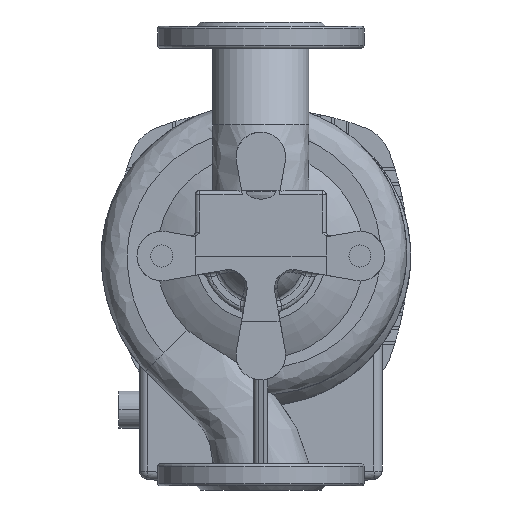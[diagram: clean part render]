
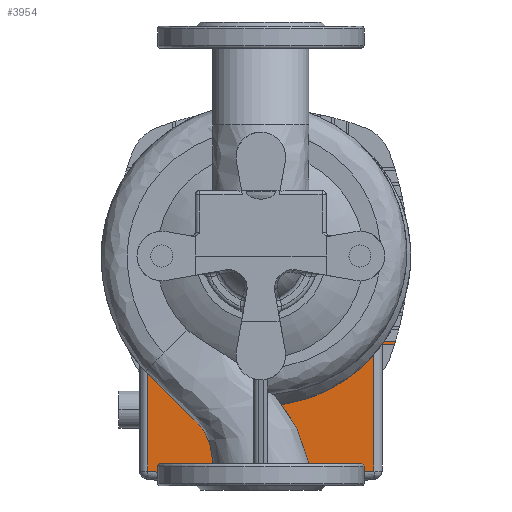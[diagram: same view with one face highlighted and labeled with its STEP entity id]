
A CAD part, front view. The second image highlights one B-rep face of the part: STEP entity #3954.
In plain terms, the highlighted planar face has unit normal (0, -1, 0) as drawn and (0, 0, 1) by its records, which use the part's own axes.
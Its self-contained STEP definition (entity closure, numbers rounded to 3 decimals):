
#27 = CARTESIAN_POINT ( 'NONE',  ( 0., 0., -113.5 ) ) ;
#345 = VECTOR ( 'NONE', #12609, 1000. ) ;
#584 = EDGE_LOOP ( 'NONE', ( #8797, #7094, #8966, #15086, #21659, #20999, #15289, #6749, #27002, #19472 ) ) ;
#720 = AXIS2_PLACEMENT_3D ( 'NONE', #22443, #16130, #8264 ) ;
#1296 = LINE ( 'NONE', #5286, #10398 ) ;
#1369 = VERTEX_POINT ( 'NONE', #26529 ) ;
#1425 = AXIS2_PLACEMENT_3D ( 'NONE', #7598, #16123, #3740 ) ;
#1437 = CARTESIAN_POINT ( 'NONE',  ( -107., 64., -113.5 ) ) ;
#1501 = AXIS2_PLACEMENT_3D ( 'NONE', #22951, #23489, #2060 ) ;
#1699 = CARTESIAN_POINT ( 'NONE',  ( 51.5, 107., -113.5 ) ) ;
#2060 = DIRECTION ( 'NONE',  ( 1., 0., 0. ) ) ;
#2129 = EDGE_CURVE ( 'NONE', #11308, #9500, #16291, .T. ) ;
#2142 = VERTEX_POINT ( 'NONE', #12300 ) ;
#2224 = CARTESIAN_POINT ( 'NONE',  ( -82.1, 156.227, -113.5 ) ) ;
#2387 = CIRCLE ( 'NONE', #1501, 213.5 ) ;
#2570 = VECTOR ( 'NONE', #11422, 1000. ) ;
#3740 = DIRECTION ( 'NONE',  ( 0., -1., 0. ) ) ;
#3954 = ADVANCED_FACE ( 'NONE', ( #5834 ), #9688, .T. ) ;
#4282 = DIRECTION ( 'NONE',  ( 0., 0., -1. ) ) ;
#4449 = DIRECTION ( 'NONE',  ( 1., 0., 0. ) ) ;
#4716 = CARTESIAN_POINT ( 'NONE',  ( -107., 62., -113.5 ) ) ;
#5225 = LINE ( 'NONE', #23925, #2570 ) ;
#5286 = CARTESIAN_POINT ( 'NONE',  ( 82.1, 107., -113.5 ) ) ;
#5430 = DIRECTION ( 'NONE',  ( 0., -1., 0. ) ) ;
#5600 = CARTESIAN_POINT ( 'NONE',  ( 82.1, 156.227, -113.5 ) ) ;
#5770 = VERTEX_POINT ( 'NONE', #2224 ) ;
#5834 = FACE_OUTER_BOUND ( 'NONE', #584, .T. ) ;
#6681 = CIRCLE ( 'NONE', #1425, 501. ) ;
#6689 = EDGE_CURVE ( 'NONE', #17000, #1369, #11320, .T. ) ;
#6749 = ORIENTED_EDGE ( 'NONE', *, *, #6689, .T. ) ;
#7094 = ORIENTED_EDGE ( 'NONE', *, *, #14782, .T. ) ;
#7598 = CARTESIAN_POINT ( 'NONE',  ( 0., -338., -113.5 ) ) ;
#8023 = CARTESIAN_POINT ( 'NONE',  ( -107., 62., -113.5 ) ) ;
#8264 = DIRECTION ( 'NONE',  ( 1., 0., 0. ) ) ;
#8410 = DIRECTION ( 'NONE',  ( 1., 0., 0. ) ) ;
#8797 = ORIENTED_EDGE ( 'NONE', *, *, #15773, .F. ) ;
#8966 = ORIENTED_EDGE ( 'NONE', *, *, #25261, .T. ) ;
#9500 = VERTEX_POINT ( 'NONE', #18025 ) ;
#9646 = VERTEX_POINT ( 'NONE', #20888 ) ;
#9688 = PLANE ( 'NONE',  #23771 ) ;
#10380 = CIRCLE ( 'NONE', #720, 213.5 ) ;
#10398 = VECTOR ( 'NONE', #22060, 1000. ) ;
#11308 = VERTEX_POINT ( 'NONE', #27122 ) ;
#11320 = CIRCLE ( 'NONE', #22277, 90.5 ) ;
#11422 = DIRECTION ( 'NONE',  ( 0., -1., 0. ) ) ;
#12300 = CARTESIAN_POINT ( 'NONE',  ( 82.1, 64., -113.5 ) ) ;
#12316 = VECTOR ( 'NONE', #4449, 1000. ) ;
#12502 = EDGE_CURVE ( 'NONE', #13947, #17000, #26697, .T. ) ;
#12609 = DIRECTION ( 'NONE',  ( 1., 0., 0. ) ) ;
#13330 = VECTOR ( 'NONE', #16424, 1000. ) ;
#13947 = VERTEX_POINT ( 'NONE', #15047 ) ;
#14323 = EDGE_CURVE ( 'NONE', #11308, #13947, #10380, .T. ) ;
#14782 = EDGE_CURVE ( 'NONE', #2142, #15644, #1296, .T. ) ;
#15047 = CARTESIAN_POINT ( 'NONE',  ( -97.799, 62., -113.5 ) ) ;
#15086 = ORIENTED_EDGE ( 'NONE', *, *, #16421, .T. ) ;
#15289 = ORIENTED_EDGE ( 'NONE', *, *, #12502, .T. ) ;
#15644 = VERTEX_POINT ( 'NONE', #5600 ) ;
#15773 = EDGE_CURVE ( 'NONE', #2142, #9646, #23038, .T. ) ;
#15883 = DIRECTION ( 'NONE',  ( 0., 0., 1. ) ) ;
#16123 = DIRECTION ( 'NONE',  ( 0., 0., 1. ) ) ;
#16130 = DIRECTION ( 'NONE',  ( 0., 0., 1. ) ) ;
#16291 = LINE ( 'NONE', #1437, #13330 ) ;
#16421 = EDGE_CURVE ( 'NONE', #5770, #9500, #5225, .T. ) ;
#16424 = DIRECTION ( 'NONE',  ( 1., 0., 0. ) ) ;
#16549 = DIRECTION ( 'NONE',  ( 1., 0., 0. ) ) ;
#16622 = VECTOR ( 'NONE', #16549, 1000. ) ;
#17000 = VERTEX_POINT ( 'NONE', #20852 ) ;
#18025 = CARTESIAN_POINT ( 'NONE',  ( -82.1, 64., -113.5 ) ) ;
#18836 = EDGE_CURVE ( 'NONE', #26531, #9646, #2387, .T. ) ;
#19472 = ORIENTED_EDGE ( 'NONE', *, *, #18836, .T. ) ;
#20852 = CARTESIAN_POINT ( 'NONE',  ( -65.926, 62., -113.5 ) ) ;
#20888 = CARTESIAN_POINT ( 'NONE',  ( 97.182, 64., -113.5 ) ) ;
#20999 = ORIENTED_EDGE ( 'NONE', *, *, #14323, .T. ) ;
#21659 = ORIENTED_EDGE ( 'NONE', *, *, #2129, .F. ) ;
#22060 = DIRECTION ( 'NONE',  ( 0., 1., 0. ) ) ;
#22137 = EDGE_CURVE ( 'NONE', #1369, #26531, #23274, .T. ) ;
#22277 = AXIS2_PLACEMENT_3D ( 'NONE', #27, #4282, #8410 ) ;
#22443 = CARTESIAN_POINT ( 'NONE',  ( 106.5, 0., -113.5 ) ) ;
#22951 = CARTESIAN_POINT ( 'NONE',  ( -106.5, 0., -113.5 ) ) ;
#23038 = LINE ( 'NONE', #24818, #345 ) ;
#23274 = LINE ( 'NONE', #4716, #12316 ) ;
#23489 = DIRECTION ( 'NONE',  ( 0., 0., 1. ) ) ;
#23725 = CARTESIAN_POINT ( 'NONE',  ( 97.799, 62., -113.5 ) ) ;
#23771 = AXIS2_PLACEMENT_3D ( 'NONE', #1699, #15883, #5430 ) ;
#23925 = CARTESIAN_POINT ( 'NONE',  ( -82.1, 107., -113.5 ) ) ;
#24818 = CARTESIAN_POINT ( 'NONE',  ( -107., 64., -113.5 ) ) ;
#25261 = EDGE_CURVE ( 'NONE', #15644, #5770, #6681, .T. ) ;
#26529 = CARTESIAN_POINT ( 'NONE',  ( 65.926, 62., -113.5 ) ) ;
#26531 = VERTEX_POINT ( 'NONE', #23725 ) ;
#26697 = LINE ( 'NONE', #8023, #16622 ) ;
#27002 = ORIENTED_EDGE ( 'NONE', *, *, #22137, .T. ) ;
#27122 = CARTESIAN_POINT ( 'NONE',  ( -97.182, 64., -113.5 ) ) ;
